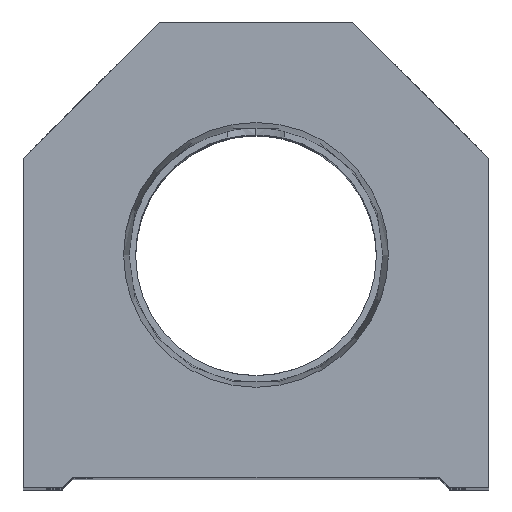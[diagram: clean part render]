
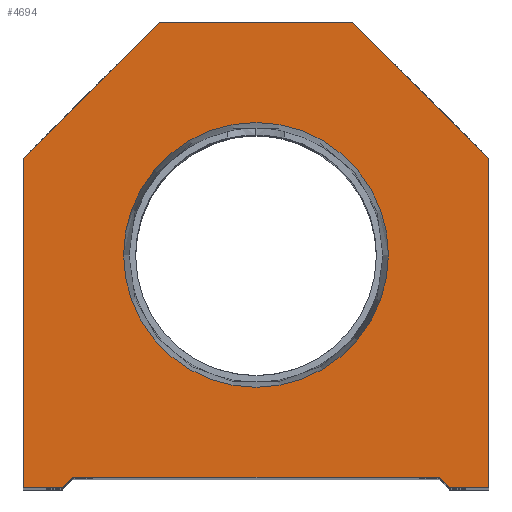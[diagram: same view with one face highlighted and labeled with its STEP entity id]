
A CAD part, top view. The second image highlights one B-rep face of the part: STEP entity #4694.
In plain terms, the highlighted planar face has unit normal (0, 0, 1).
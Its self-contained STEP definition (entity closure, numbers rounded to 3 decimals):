
#13 = EDGE_CURVE ( 'NONE', #823, #2429, #7030, .T. ) ;
#47 = DIRECTION ( 'NONE',  ( 0., 0., 1. ) ) ;
#396 = DIRECTION ( 'NONE',  ( 0.707, 0.707, 0. ) ) ;
#397 = EDGE_CURVE ( 'NONE', #6649, #10029, #6000, .T. ) ;
#445 = CIRCLE ( 'NONE', #8382, 12.647 ) ;
#532 = ORIENTED_EDGE ( 'NONE', *, *, #397, .T. ) ;
#684 = DIRECTION ( 'NONE',  ( 0., 0., 1. ) ) ;
#823 = VERTEX_POINT ( 'NONE', #5359 ) ;
#929 = CARTESIAN_POINT ( 'NONE',  ( 0., 0., 0. ) ) ;
#1058 = CARTESIAN_POINT ( 'NONE',  ( 0., 22.25, 0. ) ) ;
#1262 = CARTESIAN_POINT ( 'NONE',  ( -22.25, 0., 0. ) ) ;
#1270 = ORIENTED_EDGE ( 'NONE', *, *, #8955, .T. ) ;
#1309 = ORIENTED_EDGE ( 'NONE', *, *, #13, .T. ) ;
#1347 = CARTESIAN_POINT ( 'NONE',  ( -9.25, 9.25, 0. ) ) ;
#2146 = LINE ( 'NONE', #7885, #12426 ) ;
#2363 = ORIENTED_EDGE ( 'NONE', *, *, #12218, .T. ) ;
#2429 = VERTEX_POINT ( 'NONE', #7364 ) ;
#2535 = CARTESIAN_POINT ( 'NONE',  ( 9.25, 9.25, 0. ) ) ;
#2646 = FACE_BOUND ( 'NONE', #7945, .T. ) ;
#2773 = DIRECTION ( 'NONE',  ( 1., 0., 0. ) ) ;
#3021 = AXIS2_PLACEMENT_3D ( 'NONE', #929, #684, #5706 ) ;
#3114 = CARTESIAN_POINT ( 'NONE',  ( 22.25, 0., 0. ) ) ;
#3140 = DIRECTION ( 'NONE',  ( 1., 0., 0. ) ) ;
#3173 = LINE ( 'NONE', #3114, #10349 ) ;
#3193 = LINE ( 'NONE', #1347, #4983 ) ;
#3513 = VECTOR ( 'NONE', #2773, 1000. ) ;
#3623 = LINE ( 'NONE', #10265, #9619 ) ;
#3741 = DIRECTION ( 'NONE',  ( 1., 0., 0. ) ) ;
#3879 = ORIENTED_EDGE ( 'NONE', *, *, #10639, .T. ) ;
#3969 = EDGE_LOOP ( 'NONE', ( #532, #3879, #9065, #9267, #2363, #10325, #1270, #1309, #11062, #11257 ) ) ;
#4379 = EDGE_CURVE ( 'NONE', #8451, #6128, #3173, .T. ) ;
#4521 = CARTESIAN_POINT ( 'NONE',  ( 18.5, 0., 0. ) ) ;
#4694 = ADVANCED_FACE ( 'NONE', ( #2646, #6589 ), #8585, .T. ) ;
#4791 = VERTEX_POINT ( 'NONE', #4879 ) ;
#4863 = VECTOR ( 'NONE', #5539, 1000. ) ;
#4879 = CARTESIAN_POINT ( 'NONE',  ( 12.647, 22.25, 0. ) ) ;
#4892 = DIRECTION ( 'NONE',  ( 1., 0., 0. ) ) ;
#4983 = VECTOR ( 'NONE', #396, 1000. ) ;
#5068 = CARTESIAN_POINT ( 'NONE',  ( 9.25, 44.5, 0. ) ) ;
#5278 = VECTOR ( 'NONE', #7823, 1000. ) ;
#5359 = CARTESIAN_POINT ( 'NONE',  ( 9.25, 44.5, 0. ) ) ;
#5512 = VERTEX_POINT ( 'NONE', #10363 ) ;
#5539 = DIRECTION ( 'NONE',  ( 0.707, -0.707, 0. ) ) ;
#5706 = DIRECTION ( 'NONE',  ( 1., 0., 0. ) ) ;
#5836 = CARTESIAN_POINT ( 'NONE',  ( 0., 22.25, 0. ) ) ;
#6000 = LINE ( 'NONE', #11639, #6817 ) ;
#6036 = DIRECTION ( 'NONE',  ( 0., 1., 0. ) ) ;
#6083 = EDGE_CURVE ( 'NONE', #10203, #6957, #10397, .T. ) ;
#6128 = VERTEX_POINT ( 'NONE', #11422 ) ;
#6478 = VERTEX_POINT ( 'NONE', #11880 ) ;
#6589 = FACE_OUTER_BOUND ( 'NONE', #3969, .T. ) ;
#6649 = VERTEX_POINT ( 'NONE', #9071 ) ;
#6817 = VECTOR ( 'NONE', #3140, 1000. ) ;
#6920 = LINE ( 'NONE', #1262, #5278 ) ;
#6957 = VERTEX_POINT ( 'NONE', #4521 ) ;
#6984 = CARTESIAN_POINT ( 'NONE',  ( -18.5, 0., 0. ) ) ;
#7030 = LINE ( 'NONE', #5068, #7637 ) ;
#7364 = CARTESIAN_POINT ( 'NONE',  ( -9.25, 44.5, 0. ) ) ;
#7637 = VECTOR ( 'NONE', #9734, 1000. ) ;
#7818 = DIRECTION ( 'NONE',  ( 1., 0., 0. ) ) ;
#7823 = DIRECTION ( 'NONE',  ( 0., -1., 0. ) ) ;
#7866 = EDGE_CURVE ( 'NONE', #4791, #9523, #12611, .T. ) ;
#7885 = CARTESIAN_POINT ( 'NONE',  ( 22.25, 31.5, 0. ) ) ;
#7945 = EDGE_LOOP ( 'NONE', ( #12572, #12026 ) ) ;
#7981 = CARTESIAN_POINT ( 'NONE',  ( 22.25, 0., 0. ) ) ;
#8382 = AXIS2_PLACEMENT_3D ( 'NONE', #5836, #10877, #4892 ) ;
#8451 = VERTEX_POINT ( 'NONE', #7981 ) ;
#8585 = PLANE ( 'NONE',  #3021 ) ;
#8883 = EDGE_CURVE ( 'NONE', #6478, #6649, #6920, .T. ) ;
#8955 = EDGE_CURVE ( 'NONE', #6128, #823, #2146, .T. ) ;
#9065 = ORIENTED_EDGE ( 'NONE', *, *, #12428, .T. ) ;
#9071 = CARTESIAN_POINT ( 'NONE',  ( -22.25, 0., 0. ) ) ;
#9267 = ORIENTED_EDGE ( 'NONE', *, *, #6083, .T. ) ;
#9343 = AXIS2_PLACEMENT_3D ( 'NONE', #1058, #47, #3741 ) ;
#9404 = VECTOR ( 'NONE', #7818, 1000. ) ;
#9453 = CARTESIAN_POINT ( 'NONE',  ( -12.647, 22.25, 0. ) ) ;
#9523 = VERTEX_POINT ( 'NONE', #9453 ) ;
#9619 = VECTOR ( 'NONE', #12118, 1000. ) ;
#9734 = DIRECTION ( 'NONE',  ( -1., 0., 0. ) ) ;
#9811 = DIRECTION ( 'NONE',  ( -0.707, 0.707, 0. ) ) ;
#10029 = VERTEX_POINT ( 'NONE', #6984 ) ;
#10203 = VERTEX_POINT ( 'NONE', #12367 ) ;
#10265 = CARTESIAN_POINT ( 'NONE',  ( -22.25, 31.5, 0. ) ) ;
#10325 = ORIENTED_EDGE ( 'NONE', *, *, #4379, .T. ) ;
#10349 = VECTOR ( 'NONE', #6036, 1000. ) ;
#10363 = CARTESIAN_POINT ( 'NONE',  ( -17.5, 1., 0. ) ) ;
#10397 = LINE ( 'NONE', #2535, #4863 ) ;
#10433 = CARTESIAN_POINT ( 'NONE',  ( -17.5, 1., 0. ) ) ;
#10639 = EDGE_CURVE ( 'NONE', #10029, #5512, #3193, .T. ) ;
#10877 = DIRECTION ( 'NONE',  ( 0., 0., 1. ) ) ;
#11062 = ORIENTED_EDGE ( 'NONE', *, *, #12091, .T. ) ;
#11257 = ORIENTED_EDGE ( 'NONE', *, *, #8883, .T. ) ;
#11422 = CARTESIAN_POINT ( 'NONE',  ( 22.25, 31.5, 0. ) ) ;
#11473 = EDGE_CURVE ( 'NONE', #9523, #4791, #445, .T. ) ;
#11475 = CARTESIAN_POINT ( 'NONE',  ( 17.5, 0., 0. ) ) ;
#11639 = CARTESIAN_POINT ( 'NONE',  ( -17.5, 0., 0. ) ) ;
#11880 = CARTESIAN_POINT ( 'NONE',  ( -22.25, 31.5, 0. ) ) ;
#12026 = ORIENTED_EDGE ( 'NONE', *, *, #11473, .F. ) ;
#12091 = EDGE_CURVE ( 'NONE', #2429, #6478, #3623, .T. ) ;
#12118 = DIRECTION ( 'NONE',  ( -0.707, -0.707, 0. ) ) ;
#12218 = EDGE_CURVE ( 'NONE', #6957, #8451, #12496, .T. ) ;
#12367 = CARTESIAN_POINT ( 'NONE',  ( 17.5, 1., 0. ) ) ;
#12426 = VECTOR ( 'NONE', #9811, 1000. ) ;
#12428 = EDGE_CURVE ( 'NONE', #5512, #10203, #12609, .T. ) ;
#12496 = LINE ( 'NONE', #11475, #9404 ) ;
#12572 = ORIENTED_EDGE ( 'NONE', *, *, #7866, .F. ) ;
#12609 = LINE ( 'NONE', #10433, #3513 ) ;
#12611 = CIRCLE ( 'NONE', #9343, 12.647 ) ;
